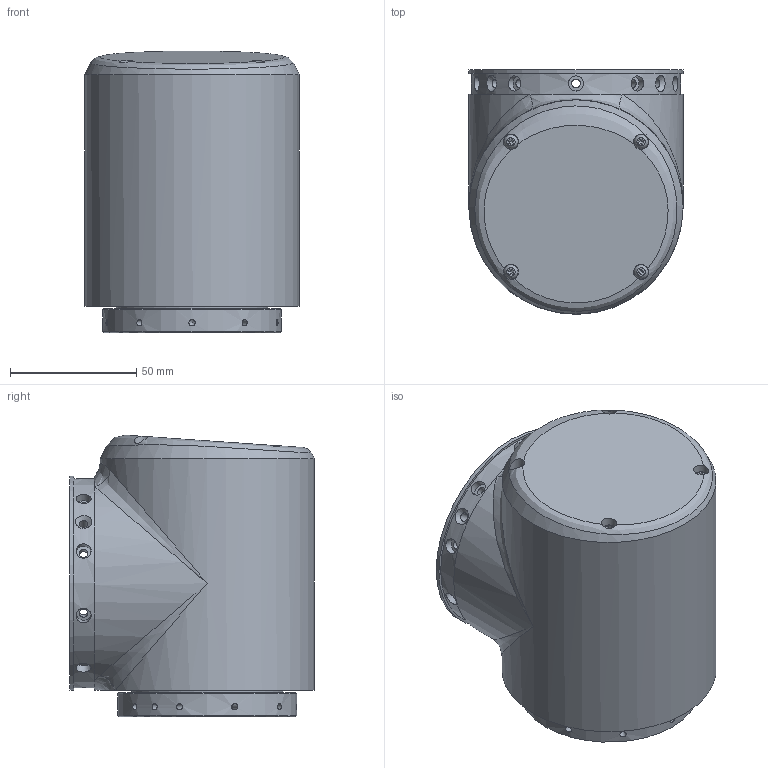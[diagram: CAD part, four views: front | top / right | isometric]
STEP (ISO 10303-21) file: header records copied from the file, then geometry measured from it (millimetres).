
FILE_DESCRIPTION (( 'STEP AP214' ), '1' );
FILE_NAME ('eRob80H｡ﾁ｡ﾁT.STEP', '2026-05-21T03:42:16', ( 'Windows User' ), ( 'P R C' ), 'SwSTEP 2.0', 'SolidWorks 2021', '' );
FILE_SCHEMA (( 'AUTOMOTIVE_DESIGN' ));
Length unit declared in the file: millimetre
Products named in the file (1): eRob80H℅℅T
Bounding box: 85 x 97 x 111.79 mm (x, y, z)
Volume: 457669.6 mm3; surface area: 111795.5 mm2
Topology: 8 solids, 44 shells, 3291 faces, 8752 edges, 5705 vertices
Faces by surface type: plane 2284, cylinder 436, bspline 416, cone 108, torus 43, sphere 4
Full cylindrical faces by diameter (mm): 1.25 x3, 1.6 x14, 1.8 x1, 2.5 x50, 3 x24, 3.2 x4, 3.4 x28, 3.5 x4, 4.5 x4, 5.5 x28, 6 x29, 18 x2, 21 x1, 22 x1, 45 x1, 60 x2, 66 x1, 68.5 x1, 71 x2, 78 x1, 80.7 x2, 81 x1, 83 x1, 85 x2
Entity records: 166266 total; most frequent: CARTESIAN_POINT 52999, ORIENTED_EDGE 16376, DIRECTION 13996, EDGE_CURVE 8188, LINE 6170, VECTOR 6170, VERTEX_POINT 5500, EDGE_LOOP 4012
